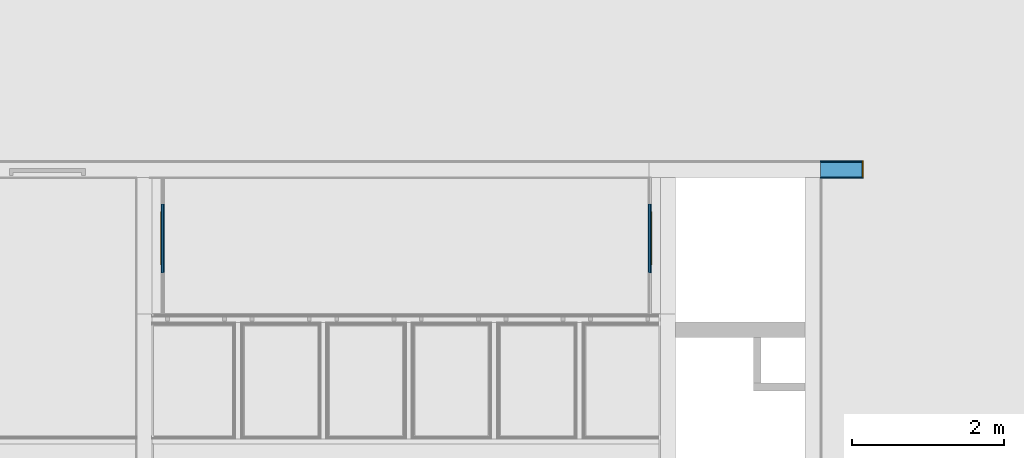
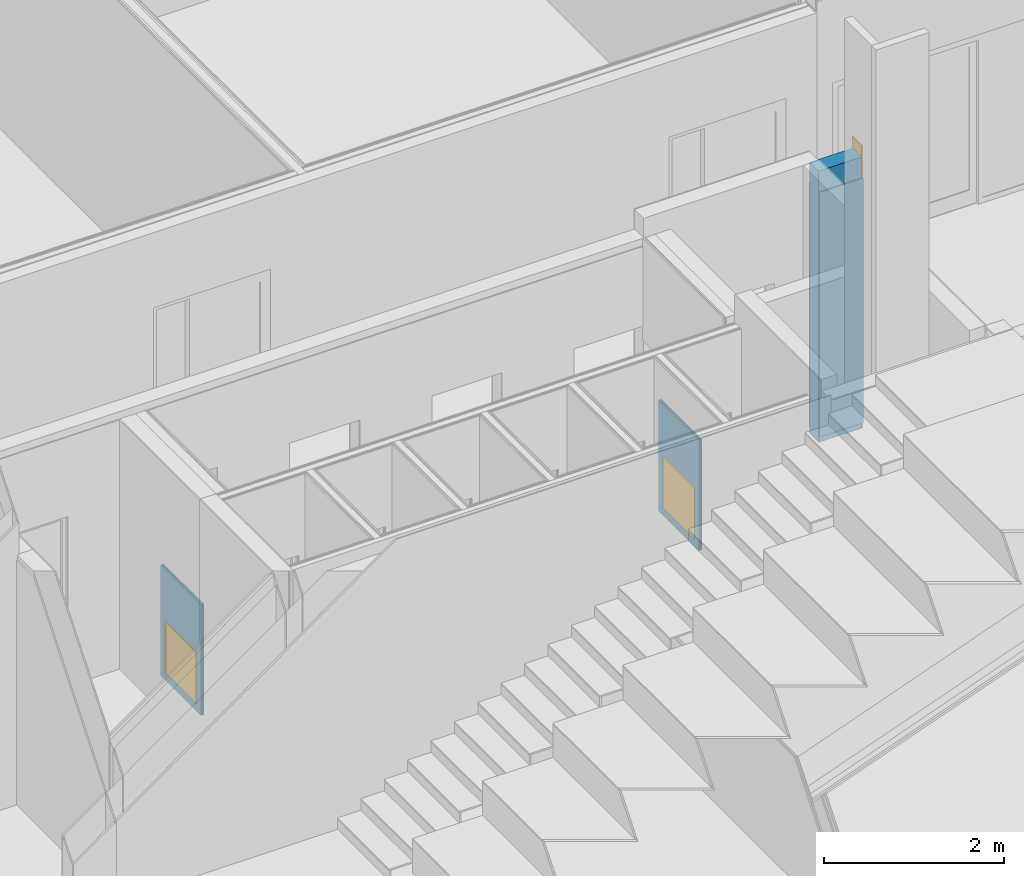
# One storey, part 25 of 139: 9 building element parts, 2 doors, 1 covering, 3 openings, 3 elements without a shape of their own.
"""IFC2X3 building model written with IfcOpenShell, lengths in millimetres."""

from ifc_helpers import new_model, entity, si_unit, converted_unit, derived_unit, money_unit, direction, frame, origin_with_axes, place, context, subcontext, project, spatial, faceted_brep, source, transform, mapped, material, type_object, element, fill, aggregate, save


model = new_model("IFC2X3")

# Units and contexts
model_context = context("Model", 3, precision=0.01, world=origin_with_axes(), true_north=direction((0.0, 1.0)))
body_context = subcontext(model_context, "Body", "Model", "MODEL_VIEW")
ifc_project = project(units=[si_unit("LENGTHUNIT", "METRE", prefix="MILLI"), si_unit("AREAUNIT", "SQUARE_METRE"), si_unit("VOLUMEUNIT", "CUBIC_METRE"), converted_unit("PLANEANGLEUNIT", "DEGREE", entity("IfcPlaneAngleMeasure", 0.0174532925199), si_unit("PLANEANGLEUNIT", "RADIAN"), dimensions=[0, 0, 0, 0, 0, 0, 0]), money_unit("EUR"), converted_unit("TIMEUNIT", "Year", entity("IfcTimeMeasure", 31556926.0), si_unit("TIMEUNIT", "SECOND"), dimensions=[0, 0, 1, 0, 0, 0, 0]), si_unit("MASSUNIT", "GRAM", prefix="KILO"), si_unit("THERMODYNAMICTEMPERATUREUNIT", "DEGREE_CELSIUS"), si_unit("LUMINOUSINTENSITYUNIT", "LUMEN"), si_unit("ENERGYUNIT", "JOULE", prefix="MEGA"), derived_unit("THERMALCONDUCTANCEUNIT", [(si_unit("POWERUNIT", "WATT"), 1), (si_unit("LENGTHUNIT", "METRE"), -1), (si_unit("THERMODYNAMICTEMPERATUREUNIT", "KELVIN"), -1)]), derived_unit("SPECIFICHEATCAPACITYUNIT", [(si_unit("ENERGYUNIT", "JOULE"), 1), (si_unit("MASSUNIT", "GRAM", prefix="KILO"), -1), (si_unit("THERMODYNAMICTEMPERATUREUNIT", "KELVIN"), -1)]), derived_unit("MASSDENSITYUNIT", [(si_unit("MASSUNIT", "GRAM", prefix="KILO"), 1), (si_unit("VOLUMEUNIT", "CUBIC_METRE"), -1)])], contexts=[model_context])

# Site, building, storey
site_placement = place(None, origin_with_axes())
site = spatial("IfcSite", under=ifc_project, at=site_placement, Name="Kolde pst 67a", CompositionType="ELEMENT")
building_placement = place(site_placement, origin_with_axes())
building = spatial("IfcBuilding", under=site, at=building_placement, Name="Riigigümnaasium", CompositionType="ELEMENT")
storey_placement = place(building_placement, frame((0.0, 0.0, 4600.0), z_axis=(0.0, 0.0, 1.0), x_axis=(1.0, 0.0, 0.0)))
storey = spatial("IfcBuildingStorey", under=building, at=storey_placement, Name="2. korrus", CompositionType="ELEMENT", Elevation=4600.0)

# Door
door_style_1 = type_object("IfcDoorStyle", Name="Door 25", ConstructionType="NOTDEFINED", OperationType="SINGLE_SWING_LEFT", ParameterTakesPrecedence=False, Sizeable=False)
shared_shape_1 = source(origin_with_axes(), body_context, "Body", "Brep", [
    faceted_brep([(320.0, -40.0, 0.0), (320.0, -50.0, 0.0), (320.0, -50.0, 670.0), (320.0, -40.0, 670.0), (332.0, -40.0, 0.0), (332.0, 0.0, 0.0), (350.0, 0.0, 0.0), (350.0, -50.0, 0.0), (350.0, -50.0, 670.0), (332.0, -40.0, 670.0), (350.0, 0.0, 670.0), (332.0, 0.0, 670.0)], [[[0, 1, 2, 3]], [[4, 5, 6, 7, 1, 0]], [[1, 7, 8, 2]], [[9, 3, 2, 8, 10, 11]], [[9, 4, 0, 3]], [[11, 5, 4, 9]], [[11, 10, 6, 5]], [[6, 10, 8, 7]]]),
    faceted_brep([(-332.0, -40.0, 670.0), (-332.0, 0.0, 670.0), (-350.0, 0.0, 670.0), (-350.0, -50.0, 670.0), (-320.0, -50.0, 670.0), (-320.0, -40.0, 670.0), (-332.0, -40.0, 0.0), (-332.0, 0.0, 0.0), (-350.0, 0.0, 0.0), (-350.0, -50.0, 0.0), (-320.0, -50.0, 0.0), (-320.0, -40.0, 0.0)], [[[0, 1, 2, 3, 4, 5]], [[0, 6, 7, 1]], [[7, 8, 2, 1]], [[2, 8, 9, 3]], [[3, 9, 10, 4]], [[5, 4, 10, 11]], [[5, 11, 6, 0]], [[6, 11, 10, 9, 8, 7]]]),
    faceted_brep([(332.0, 0.0, 682.0), (-332.0, 0.0, 682.0), (-332.0, 0.0, 670.0), (-350.0, 0.0, 670.0), (-350.0, 0.0, 700.0), (350.0, 0.0, 700.0), (350.0, 0.0, 670.0), (332.0, 0.0, 670.0), (332.0, -40.0, 682.0), (-332.0, -40.0, 682.0), (-332.0, -40.0, 670.0), (-320.0, -40.0, 670.0), (-320.0, -50.0, 670.0), (-350.0, -50.0, 670.0), (-350.0, -50.0, 700.0), (350.0, -50.0, 700.0), (350.0, -50.0, 670.0), (332.0, -40.0, 670.0), (320.0, -50.0, 670.0), (320.0, -40.0, 670.0)], [[[0, 1, 2, 3, 4, 5, 6, 7]], [[0, 8, 9, 1]], [[1, 9, 10, 2]], [[10, 11, 12, 13, 3, 2]], [[4, 3, 13, 14]], [[5, 4, 14, 15]], [[6, 5, 15, 16]], [[17, 7, 6, 16, 18, 19]], [[7, 17, 8, 0]], [[10, 9, 8, 17, 19, 11]], [[19, 18, 12, 11]], [[12, 18, 16, 15, 14, 13]]]),
    faceted_brep([(-332.0, 0.0, 0.0), (332.0, 0.0, 0.0), (332.0, -40.0, 0.0), (-332.0, -40.0, 0.0), (-332.0, 0.0, 682.0), (332.0, 0.0, 682.0), (332.0, -40.0, 682.0), (-332.0, -40.0, 682.0)], [[[0, 1, 2, 3]], [[0, 4, 5, 1]], [[1, 5, 6, 2]], [[3, 2, 6, 7]], [[4, 0, 3, 7]], [[5, 4, 7, 6]]]),
])
wall_2_placement = place(storey_placement, frame((45614.9854607, 49219.999951, 0.0), z_axis=(0.0, 0.0, 1.0), x_axis=(0.0, -1.0, 0.0)))
opening_2_placement = place(wall_2_placement, frame((450.0, 0.0, 100.0), z_axis=(0.0, 0.0, 1.0), x_axis=(1.0, 0.0, 0.0)))
door_1_placement = place(opening_2_placement, frame((350.0, 0.0, 0.0), z_axis=(0.0, 0.0, 1.0), x_axis=(-1.0, 0.0, 0.0)))
door_1 = element("IfcDoor", 1, at=door_1_placement, inside=storey, type_object=door_style_1, Name="Hooldusluuk vastavalt SA osale", ObjectType="DOOR", OverallHeight=700.0, OverallWidth=700.0, context=body_context, shape_type="MappedRepresentation", body=[
    mapped(shared_shape_1, transform((350.0, 0.0, 0.0))),
])

door_style_2 = type_object("IfcDoorStyle", Name="Door 25", ConstructionType="NOTDEFINED", OperationType="SINGLE_SWING_RIGHT", ParameterTakesPrecedence=False, Sizeable=False)
shared_shape_2 = source(origin_with_axes(), body_context, "Body", "Brep", [
    faceted_brep([(-320.0, -40.0, 0.0), (-320.0, -40.0, 670.0), (-320.0, -50.0, 670.0), (-320.0, -50.0, 0.0), (-332.0, -40.0, 670.0), (-332.0, -40.0, 0.0), (-332.0, 0.0, 670.0), (-350.0, 0.0, 670.0), (-350.0, -50.0, 670.0), (-350.0, -50.0, 0.0), (-350.0, 0.0, 0.0), (-332.0, 0.0, 0.0)], [[[0, 1, 2, 3]], [[4, 1, 0, 5]], [[4, 6, 7, 8, 2, 1]], [[3, 2, 8, 9]], [[5, 0, 3, 9, 10, 11]], [[6, 4, 5, 11]], [[6, 11, 10, 7]], [[10, 9, 8, 7]]]),
    faceted_brep([(332.0, -40.0, 670.0), (320.0, -40.0, 670.0), (320.0, -50.0, 670.0), (350.0, -50.0, 670.0), (350.0, 0.0, 670.0), (332.0, 0.0, 670.0), (332.0, -40.0, 0.0), (320.0, -40.0, 0.0), (320.0, -50.0, 0.0), (350.0, -50.0, 0.0), (350.0, 0.0, 0.0), (332.0, 0.0, 0.0)], [[[0, 1, 2, 3, 4, 5]], [[1, 0, 6, 7]], [[1, 7, 8, 2]], [[3, 2, 8, 9]], [[4, 3, 9, 10]], [[11, 5, 4, 10]], [[0, 5, 11, 6]], [[6, 11, 10, 9, 8, 7]]]),
    faceted_brep([(-332.0, 0.0, 682.0), (-332.0, 0.0, 670.0), (-350.0, 0.0, 670.0), (-350.0, 0.0, 700.0), (350.0, 0.0, 700.0), (350.0, 0.0, 670.0), (332.0, 0.0, 670.0), (332.0, 0.0, 682.0), (-332.0, -40.0, 682.0), (-332.0, -40.0, 670.0), (-320.0, -40.0, 670.0), (-320.0, -50.0, 670.0), (-350.0, -50.0, 670.0), (-350.0, -50.0, 700.0), (350.0, -50.0, 700.0), (350.0, -50.0, 670.0), (332.0, -40.0, 670.0), (320.0, -50.0, 670.0), (320.0, -40.0, 670.0), (332.0, -40.0, 682.0)], [[[0, 1, 2, 3, 4, 5, 6, 7]], [[1, 0, 8, 9]], [[9, 10, 11, 12, 2, 1]], [[2, 12, 13, 3]], [[3, 13, 14, 4]], [[4, 14, 15, 5]], [[16, 6, 5, 15, 17, 18]], [[7, 6, 16, 19]], [[0, 7, 19, 8]], [[16, 18, 10, 9, 8, 19]], [[10, 18, 17, 11]], [[17, 15, 14, 13, 12, 11]]]),
    faceted_brep([(332.0, 0.0, 0.0), (332.0, -40.0, 0.0), (-332.0, -40.0, 0.0), (-332.0, 0.0, 0.0), (332.0, 0.0, 682.0), (332.0, -40.0, 682.0), (-332.0, -40.0, 682.0), (-332.0, 0.0, 682.0)], [[[0, 1, 2, 3]], [[4, 5, 1, 0]], [[1, 5, 6, 2]], [[3, 2, 6, 7]], [[0, 3, 7, 4]], [[7, 6, 5, 4]]]),
])
wall_3_placement = place(storey_placement, frame((39269.8305056, 49219.9999658, 0.0), z_axis=(0.0, 0.0, 1.0), x_axis=(0.0, -1.0, 0.0)))
opening_3_placement = place(wall_3_placement, frame((450.0, 0.0, 100.0), z_axis=(0.0, 0.0, 1.0), x_axis=(1.0, 0.0, 0.0)))
door_2_placement = place(opening_3_placement, frame((-350.0, 0.0, 0.0), z_axis=(0.0, 0.0, 1.0), x_axis=(1.0, 0.0, 0.0)))
door_2 = element("IfcDoor", 2, at=door_2_placement, inside=storey, type_object=door_style_2, Name="Hooldusluuk vastavalt SA osale", ObjectType="DOOR", OverallHeight=700.0, OverallWidth=700.0, context=body_context, shape_type="MappedRepresentation", body=[
    mapped(shared_shape_2, transform((350.0, 0.0, 0.0))),
])

# Covering
ifc_material_1 = material(Name="_VIIMISTLUSKIHT - viimistlus vastavalt SA osale")
covering_type = type_object("IfcCoveringType", Name="Returned End 25", PredefinedType="NOTDEFINED")
shared_shape_3 = source(origin_with_axes(), body_context, "Body", "Brep", [
    faceted_brep([(0.0, 0.0, 0.0), (0.0, -15.0, 0.0), (0.0, -15.0, 3830.0), (0.0, 0.0, 3830.0), (215.0, 0.0, 0.0), (215.0, -15.0, 0.0), (215.0, -15.0, 3830.0), (215.0, 0.0, 3830.0)], [[[0, 1, 2, 3]], [[4, 5, 1, 0]], [[5, 6, 2, 1]], [[6, 7, 3, 2]], [[7, 4, 0, 3]], [[4, 7, 6, 5]]]),
])
wall_1_placement = place(storey_placement, frame((47874.9854607, 49769.9999599, -80.0), z_axis=(0.0, 0.0, 1.0), x_axis=(1.0, 0.0, 0.0)))
opening_1_placement = place(wall_1_placement, frame((565.0, 0.0, 0.0), z_axis=(0.0, 0.0, 1.0), x_axis=(1.0, 0.0, 0.0)))
covering_placement = place(opening_1_placement, frame((7.5, 0.0, 0.0), z_axis=(0.0, 0.0, 1.0), x_axis=(-1.0, 0.0, 0.0)))
covering = element("IfcCovering", 3, at=covering_placement, inside=storey, type_object=covering_type, material=ifc_material_1, Name="Pale", PredefinedType="NOTDEFINED", context=body_context, shape_type="MappedRepresentation", body=[
    mapped(shared_shape_3, transform((7.5, -15.0, 0.0), x_axis=(0.0, 1.0, 0.0), y_axis=(-1.0, 0.0, 0.0), z_axis=(0.0, 0.0, 1.0))),
])

# Wall, opening
wall_type_1 = type_object("IfcWallType", Name="SS-RB-20/2_+2 plaat 230", PredefinedType="NOTDEFINED")
wall_1 = element("IfcWall", 4, at=wall_1_placement, inside=storey, type_object=wall_type_1, Name="Sisesein")
opening_1 = element("IfcOpeningElement", 5, at=opening_1_placement, cuts=wall_1, Name="Pale", context=body_context, shape_type="Brep", body=[
    faceted_brep([(-15.0, -200.0, 0.0), (0.0, -200.0, 0.0), (0.0, -200.0, 3830.0), (-15.0, -200.0, 3830.0), (-15.0, 15.0, 0.0), (0.0, 15.0, 0.0), (0.0, 15.0, 3830.0), (-15.0, 15.0, 3830.0)], [[[0, 1, 2, 3]], [[0, 4, 5, 1]], [[1, 5, 6, 2]], [[3, 2, 6, 7]], [[4, 0, 3, 7]], [[5, 4, 7, 6]]]),
])

fill(opening_1, covering)

# Building element part
building_element_part_1_placement = place(wall_1_placement, origin_with_axes())
building_element_part_1 = element("IfcBuildingElementPart", 6, at=building_element_part_1_placement, material=ifc_material_1, Name="_VIIMISTLUSKIHT - viimistlus vastavalt SA osale", context=body_context, shape_type="Brep", body=[
    faceted_brep([(550.0, 0.0, 3400.0), (550.0, 15.0, 3400.0), (0.0, 15.0, 3400.0), (0.0, 0.0, 3400.0), (550.0, 15.0, 80.0), (550.0, 0.0, 80.0), (0.0, 15.0, 80.0), (0.0, 0.0, 80.0)], [[[0, 1, 2, 3]], [[4, 1, 0, 5]], [[1, 4, 6, 2]], [[2, 6, 7, 3]], [[5, 0, 3, 7]], [[4, 5, 7, 6]]]),
])

ifc_material_2 = material(Name="_KANDETARIND - monteeritav raudbetoon vastavalt EK osale")
building_element_part_2_placement = place(wall_1_placement, origin_with_axes())
building_element_part_2 = element("IfcBuildingElementPart", 7, at=building_element_part_2_placement, material=ifc_material_2, Name="_KANDETARIND - monteeritav raudbetoon vastavalt EK osale", context=body_context, shape_type="Brep", body=[
    faceted_brep([(550.0, -200.0, 3680.0), (550.0, 0.0, 3680.0), (0.0, 0.0, 3680.0), (0.0, -200.0, 3680.0), (550.0, 0.0, 0.0), (550.0, -200.0, 0.0), (0.0, 0.0, 0.0), (0.0, -200.0, 0.0)], [[[0, 1, 2, 3]], [[4, 1, 0, 5]], [[1, 4, 6, 2]], [[2, 6, 7, 3]], [[5, 0, 3, 7]], [[4, 5, 7, 6]]]),
])

building_element_part_3_placement = place(wall_1_placement, origin_with_axes())
building_element_part_3 = element("IfcBuildingElementPart", 8, at=building_element_part_3_placement, material=ifc_material_1, Name="_VIIMISTLUSKIHT - viimistlus vastavalt SA osale", context=body_context, shape_type="Brep", body=[
    faceted_brep([(0.0, -200.0, 3400.0), (565.0, -200.0, 3400.0), (565.0, -200.0, 80.0), (0.0, -200.0, 80.0), (565.0, -215.0, 3400.0), (0.0, -215.0, 3400.0), (565.0, -215.0, 80.0), (0.0, -215.0, 80.0)], [[[0, 1, 2, 3]], [[4, 1, 0, 5]], [[1, 4, 6, 2]], [[3, 2, 6, 7]], [[5, 0, 3, 7]], [[4, 5, 7, 6]]]),
])

aggregate(wall_1, [building_element_part_1, building_element_part_2, building_element_part_3])

# Wall, opening
wall_type_2 = type_object("IfcWallType", Name="SS-MK-10/11_kollektorvarisein plaaditud 40", PredefinedType="NOTDEFINED")
wall_2 = element("IfcWall", 9, at=wall_2_placement, inside=storey, type_object=wall_type_2, Name="Sisesein")
opening_2 = element("IfcOpeningElement", 10, at=opening_2_placement, cuts=wall_2, Name="Hooldusluuk vastavalt SA osale", context=body_context, shape_type="Brep", body=[
    faceted_brep([(350.0, -80.0, 700.0), (350.0, -80.0, 0.0), (350.0, 40.0, 0.0), (350.0, 40.0, 700.0), (-350.0, -80.0, 700.0), (-350.0, -80.0, 0.0), (-350.0, 40.0, 0.0), (-350.0, 40.0, 700.0)], [[[0, 1, 2, 3]], [[0, 4, 5, 1]], [[1, 5, 6, 2]], [[3, 2, 6, 7]], [[4, 0, 3, 7]], [[5, 4, 7, 6]]]),
])

fill(opening_2, door_1)

# Building element part
ifc_material_3 = material(Name="_PLAATMATERJAL - kipsplaat veekindel")
building_element_part_4_placement = place(wall_2_placement, origin_with_axes())
building_element_part_4 = element("IfcBuildingElementPart", 11, at=building_element_part_4_placement, material=ifc_material_3, Name="_PLAATMATERJAL - kipsplaat veekindel", context=body_context, shape_type="Brep", body=[
    faceted_brep([(900.000018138, 27.5, 1500.0), (0.0, 27.5, 1500.0), (0.0, 27.5, 0.0), (900.000018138, 27.5, 0.0), (800.0, 27.5, 100.0), (100.0, 27.5, 100.0), (100.0, 27.5, 800.0), (800.0, 27.5, 800.0), (900.000018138, 40.0, 1500.0), (0.0, 40.0, 1500.0), (0.0, 40.0, 0.0), (900.000018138, 40.0, 0.0), (800.0, 40.0, 100.0), (100.0, 40.0, 100.0), (100.0, 40.0, 800.0), (800.0, 40.0, 800.0)], [[[0, 1, 2, 3], [4, 5, 6, 7]], [[8, 9, 1, 0]], [[2, 1, 9, 10]], [[3, 2, 10, 11]], [[8, 0, 3, 11]], [[12, 13, 5, 4]], [[13, 14, 6, 5]], [[14, 15, 7, 6]], [[15, 12, 4, 7]], [[11, 10, 9, 8], [12, 15, 14, 13]]]),
])

building_element_part_5_placement = place(wall_2_placement, origin_with_axes())
building_element_part_5 = element("IfcBuildingElementPart", 12, at=building_element_part_5_placement, material=ifc_material_3, Name="_PLAATMATERJAL - kipsplaat veekindel", context=body_context, shape_type="Brep", body=[
    faceted_brep([(900.000018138, 15.0, 1500.0), (0.0, 15.0, 1500.0), (0.0, 15.0, 0.0), (900.000018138, 15.0, 0.0), (800.0, 15.0, 100.0), (100.0, 15.0, 100.0), (100.0, 15.0, 800.0), (800.0, 15.0, 800.0), (900.000018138, 27.5, 1500.0), (0.0, 27.5, 1500.0), (0.0, 27.5, 0.0), (900.000018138, 27.5, 0.0), (800.0, 27.5, 100.0), (100.0, 27.5, 100.0), (100.0, 27.5, 800.0), (800.0, 27.5, 800.0)], [[[0, 1, 2, 3], [4, 5, 6, 7]], [[8, 9, 1, 0]], [[2, 1, 9, 10]], [[3, 2, 10, 11]], [[8, 0, 3, 11]], [[12, 13, 5, 4]], [[13, 14, 6, 5]], [[14, 15, 7, 6]], [[15, 12, 4, 7]], [[11, 10, 9, 8], [12, 15, 14, 13]]]),
])

building_element_part_6_placement = place(wall_2_placement, origin_with_axes())
building_element_part_6 = element("IfcBuildingElementPart", 13, at=building_element_part_6_placement, material=ifc_material_1, Name="_VIIMISTLUSKIHT - viimistlus vastavalt SA osale", context=body_context, shape_type="Brep", body=[
    faceted_brep([(900.000018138, 0.0, 1500.0), (0.0, 0.0, 1500.0), (0.0, 0.0, 0.0), (900.000018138, 0.0, 0.0), (800.0, 0.0, 100.0), (100.0, 0.0, 100.0), (100.0, 0.0, 800.0), (800.0, 0.0, 800.0), (900.000018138, 15.0, 1500.0), (0.0, 15.0, 1500.0), (0.0, 15.0, 0.0), (900.000018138, 15.0, 0.0), (800.0, 15.0, 100.0), (100.0, 15.0, 100.0), (100.0, 15.0, 800.0), (800.0, 15.0, 800.0)], [[[0, 1, 2, 3], [4, 5, 6, 7]], [[8, 9, 1, 0]], [[2, 1, 9, 10]], [[3, 2, 10, 11]], [[8, 0, 3, 11]], [[12, 13, 5, 4]], [[13, 14, 6, 5]], [[14, 15, 7, 6]], [[15, 12, 4, 7]], [[11, 10, 9, 8], [12, 15, 14, 13]]]),
])

aggregate(wall_2, [building_element_part_4, building_element_part_5, building_element_part_6])

# Wall, opening
wall_3 = element("IfcWall", 14, at=wall_3_placement, inside=storey, type_object=wall_type_2, Name="Sisesein")
opening_3 = element("IfcOpeningElement", 15, at=opening_3_placement, cuts=wall_3, Name="Hooldusluuk vastavalt SA osale", context=body_context, shape_type="Brep", body=[
    faceted_brep([(350.0, -40.0, 700.0), (350.0, -40.0, 0.0), (350.0, 80.0, 0.0), (350.0, 80.0, 700.0), (-350.0, -40.0, 700.0), (-350.0, -40.0, 0.0), (-350.0, 80.0, 0.0), (-350.0, 80.0, 700.0)], [[[0, 1, 2, 3]], [[0, 4, 5, 1]], [[1, 5, 6, 2]], [[3, 2, 6, 7]], [[4, 0, 3, 7]], [[5, 4, 7, 6]]]),
])

fill(opening_3, door_2)

# Building element part
building_element_part_7_placement = place(wall_3_placement, origin_with_axes())
building_element_part_7 = element("IfcBuildingElementPart", 16, at=building_element_part_7_placement, material=ifc_material_1, Name="_VIIMISTLUSKIHT - viimistlus vastavalt SA osale", context=body_context, shape_type="Brep", body=[
    faceted_brep([(900.000018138, -15.0, 1500.0), (0.0, -15.0, 1500.0), (0.0, -15.0, 0.0), (900.000018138, -15.0, 0.0), (800.0, -15.0, 100.0), (100.0, -15.0, 100.0), (100.0, -15.0, 800.0), (800.0, -15.0, 800.0), (900.000018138, 0.0, 1500.0), (0.0, 0.0, 1500.0), (0.0, 0.0, 0.0), (900.000018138, 0.0, 0.0), (800.0, 0.0, 100.0), (100.0, 0.0, 100.0), (100.0, 0.0, 800.0), (800.0, 0.0, 800.0)], [[[0, 1, 2, 3], [4, 5, 6, 7]], [[8, 9, 1, 0]], [[9, 10, 2, 1]], [[3, 2, 10, 11]], [[3, 11, 8, 0]], [[12, 13, 5, 4]], [[13, 14, 6, 5]], [[14, 15, 7, 6]], [[15, 12, 4, 7]], [[11, 10, 9, 8], [12, 15, 14, 13]]]),
])

building_element_part_8_placement = place(wall_3_placement, origin_with_axes())
building_element_part_8 = element("IfcBuildingElementPart", 17, at=building_element_part_8_placement, material=ifc_material_3, Name="_PLAATMATERJAL - kipsplaat veekindel", context=body_context, shape_type="Brep", body=[
    faceted_brep([(900.000018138, -27.5, 1500.0), (0.0, -27.5, 1500.0), (0.0, -27.5, 0.0), (900.000018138, -27.5, 0.0), (800.0, -27.5, 100.0), (100.0, -27.5, 100.0), (100.0, -27.5, 800.0), (800.0, -27.5, 800.0), (900.000018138, -15.0, 1500.0), (0.0, -15.0, 1500.0), (0.0, -15.0, 0.0), (900.000018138, -15.0, 0.0), (800.0, -15.0, 100.0), (100.0, -15.0, 100.0), (100.0, -15.0, 800.0), (800.0, -15.0, 800.0)], [[[0, 1, 2, 3], [4, 5, 6, 7]], [[8, 9, 1, 0]], [[9, 10, 2, 1]], [[3, 2, 10, 11]], [[3, 11, 8, 0]], [[12, 13, 5, 4]], [[13, 14, 6, 5]], [[14, 15, 7, 6]], [[15, 12, 4, 7]], [[11, 10, 9, 8], [12, 15, 14, 13]]]),
])

building_element_part_9_placement = place(wall_3_placement, origin_with_axes())
building_element_part_9 = element("IfcBuildingElementPart", 18, at=building_element_part_9_placement, material=ifc_material_3, Name="_PLAATMATERJAL - kipsplaat veekindel", context=body_context, shape_type="Brep", body=[
    faceted_brep([(900.000018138, -40.0, 1500.0), (0.0, -40.0, 1500.0), (0.0, -40.0, 0.0), (900.000018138, -40.0, 0.0), (800.0, -40.0, 100.0), (100.0, -40.0, 100.0), (100.0, -40.0, 800.0), (800.0, -40.0, 800.0), (900.000018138, -27.5, 1500.0), (0.0, -27.5, 1500.0), (0.0, -27.5, 0.0), (900.000018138, -27.5, 0.0), (800.0, -27.5, 100.0), (100.0, -27.5, 100.0), (100.0, -27.5, 800.0), (800.0, -27.5, 800.0)], [[[0, 1, 2, 3], [4, 5, 6, 7]], [[8, 9, 1, 0]], [[9, 10, 2, 1]], [[3, 2, 10, 11]], [[3, 11, 8, 0]], [[12, 13, 5, 4]], [[13, 14, 6, 5]], [[14, 15, 7, 6]], [[15, 12, 4, 7]], [[11, 10, 9, 8], [12, 15, 14, 13]]]),
])

aggregate(wall_3, [building_element_part_7, building_element_part_8, building_element_part_9])

save(model, "model.ifc")
